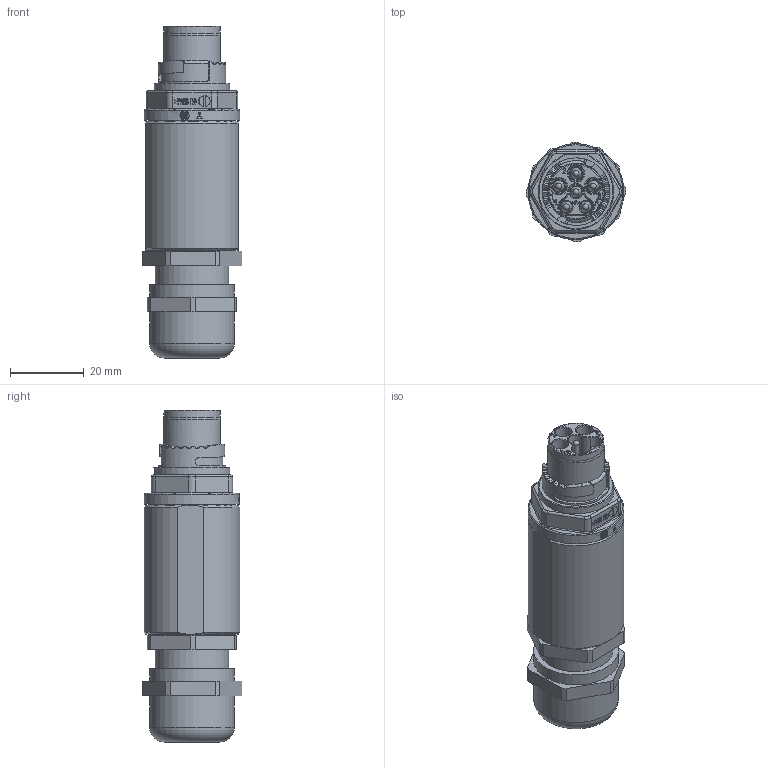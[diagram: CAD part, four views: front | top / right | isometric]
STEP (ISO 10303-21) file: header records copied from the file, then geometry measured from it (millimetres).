
FILE_DESCRIPTION (( 'STEP AP203' ), '1' );
FILE_NAME ('X-TEC_15K_HANDMONTAGE-STI_STEP.STEP', '2023-09-25T08:04:46', ( '' ), ( '' ), 'SwSTEP 2.0', 'SolidWorks 2021', '' );
FILE_SCHEMA (( 'CONFIG_CONTROL_DESIGN' ));
Length unit declared in the file: millimetre
Products named in the file (1): X-TEC_15K_HANDMONTAGE-STI_STEP
Bounding box: 27 x 27 x 90 mm (x, y, z)
Volume: 23860.1 mm3; surface area: 19850.1 mm2
Topology: 10 solids, 10 shells, 827 faces, 2070 edges, 1344 vertices
Faces by surface type: plane 370, cylinder 242, bspline 127, torus 48, cone 40
Full cylindrical faces by diameter (mm): 0.8 x6, 1.6 x6, 1.75 x6, 2.5 x1, 2.6 x12, 2.8 x6, 3.2 x18, 3.3 x6, 3.4 x6, 4 x6, 4.4 x3, 13 x1, 15.2 x1, 15.4 x1, 18 x1, 18.304 x1, 18.5 x7, 20 x2, 20.5 x1, 23 x2, 23.5 x1, 26 x1
Entity records: 40779 total; most frequent: CARTESIAN_POINT 22935, ORIENTED_EDGE 3706, DIRECTION 3214, EDGE_CURVE 1853, VERTEX_POINT 1289, AXIS2_PLACEMENT_3D 1139, EDGE_LOOP 1082, VECTOR 936
